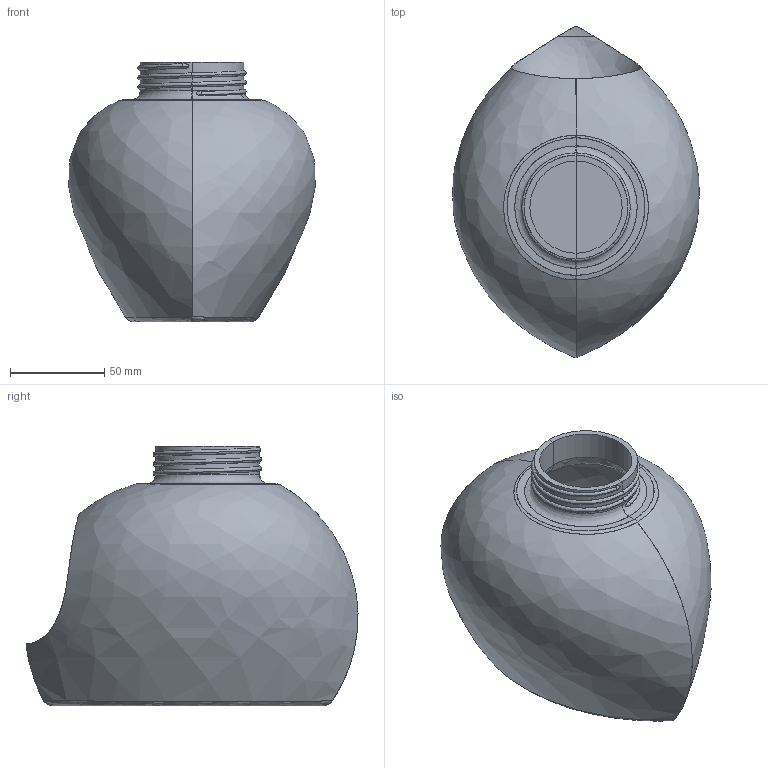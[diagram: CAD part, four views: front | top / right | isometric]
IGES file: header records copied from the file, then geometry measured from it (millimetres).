
Start section: START RECORD GO HERE.
Global section: file name: c1-Rodriguez_Lenguas_Noel-solucion-posible.igs; native system: IBM CATIA IGES - CATIA Version 5 Release 19 ; preprocessor: CATIA Version 5 Release 19 ; author: andres.garcia; organization: IQS; date: 20200131.143938; units: millimetre
Bounding box: 130.85 x 176.3 x 138 mm (x, y, z)
Surface area: 132804.3 mm2 (no closed solid volume)
Topology: 0 solids, 0 shells, 54 faces, 252 edges, 248 vertices
Faces by surface type: bspline 32, revolution 16, plane 6
